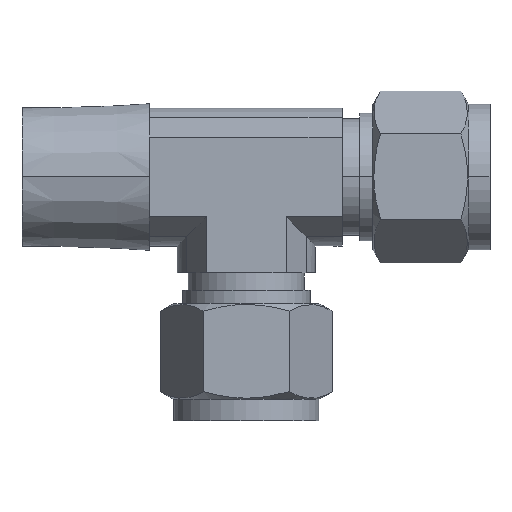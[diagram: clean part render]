
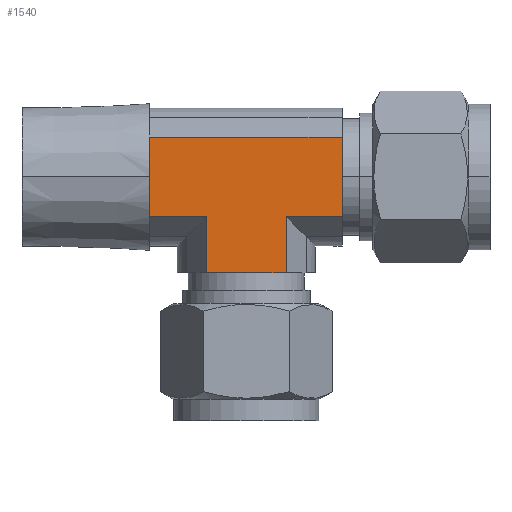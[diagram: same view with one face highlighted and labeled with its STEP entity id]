
A CAD part, top view. The second image highlights one B-rep face of the part: STEP entity #1540.
In plain terms, the highlighted planar face has unit normal (0, 0, 1).
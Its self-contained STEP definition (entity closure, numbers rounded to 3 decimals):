
#3 = CARTESIAN_POINT ( 'NONE',  ( -14.5, -5.947, 10.3 ) ) ;
#4 = DIRECTION ( 'NONE',  ( -1., 0., 0. ) ) ;
#5 = VECTOR ( 'NONE', #4, 1000. ) ;
#6 = CARTESIAN_POINT ( 'NONE',  ( 14.32, -5.947, 10.3 ) ) ;
#7 = LINE ( 'NONE', #6, #5 ) ;
#9 = CARTESIAN_POINT ( 'NONE',  ( -5.947, -5.947, 10.3 ) ) ;
#20 = DIRECTION ( 'NONE',  ( -1., 0., 0. ) ) ;
#21 = VECTOR ( 'NONE', #20, 1000. ) ;
#22 = CARTESIAN_POINT ( 'NONE',  ( 14.32, -5.947, 10.3 ) ) ;
#99 = DIRECTION ( 'NONE',  ( 0., 1., 0. ) ) ;
#100 = VECTOR ( 'NONE', #99, 1000. ) ;
#101 = CARTESIAN_POINT ( 'NONE',  ( 5.947, -14.32, 10.3 ) ) ;
#102 = LINE ( 'NONE', #101, #100 ) ;
#134 = CARTESIAN_POINT ( 'NONE',  ( 14.32, -5.947, 10.3 ) ) ;
#173 = LINE ( 'NONE', #22, #21 ) ;
#185 = DIRECTION ( 'NONE',  ( 0., -1., 0. ) ) ;
#186 = VECTOR ( 'NONE', #185, 1000. ) ;
#187 = CARTESIAN_POINT ( 'NONE',  ( 14.32, 5.947, 10.3 ) ) ;
#188 = LINE ( 'NONE', #187, #186 ) ;
#189 = CARTESIAN_POINT ( 'NONE',  ( 14.32, 5.947, 10.3 ) ) ;
#312 = DIRECTION ( 'NONE',  ( 0., 1., 0. ) ) ;
#313 = VECTOR ( 'NONE', #312, 1000. ) ;
#314 = CARTESIAN_POINT ( 'NONE',  ( -5.947, -14.32, 10.3 ) ) ;
#315 = DIRECTION ( 'NONE',  ( 0., 1., 0. ) ) ;
#316 = DIRECTION ( 'NONE',  ( 0., 0., -1. ) ) ;
#317 = CARTESIAN_POINT ( 'NONE',  ( 14.32, 5.947, 10.3 ) ) ;
#318 = AXIS2_PLACEMENT_3D ( 'NONE', #317, #316, #315 ) ;
#319 = PLANE ( 'NONE',  #318 ) ;
#320 = LINE ( 'NONE', #314, #313 ) ;
#321 = FACE_OUTER_BOUND ( 'NONE', #1541, .T. ) ;
#344 = DIRECTION ( 'NONE',  ( -1., 0., 0. ) ) ;
#345 = VECTOR ( 'NONE', #344, 1000. ) ;
#346 = CARTESIAN_POINT ( 'NONE',  ( 14.32, 5.947, 10.3 ) ) ;
#347 = LINE ( 'NONE', #346, #345 ) ;
#471 = CARTESIAN_POINT ( 'NONE',  ( 5.947, -5.947, 10.3 ) ) ;
#525 = DIRECTION ( 'NONE',  ( 0., 1., 0. ) ) ;
#526 = VECTOR ( 'NONE', #525, 1000. ) ;
#546 = CARTESIAN_POINT ( 'NONE',  ( -14.5, -3.692, 10.3 ) ) ;
#555 = CARTESIAN_POINT ( 'NONE',  ( -14.5, -5.947, 10.3 ) ) ;
#556 = LINE ( 'NONE', #555, #526 ) ;
#557 = DIRECTION ( 'NONE',  ( 0., 1., 0. ) ) ;
#558 = VECTOR ( 'NONE', #557, 1000. ) ;
#559 = CARTESIAN_POINT ( 'NONE',  ( -14.5, -5.947, 10.3 ) ) ;
#565 = LINE ( 'NONE', #559, #558 ) ;
#1039 = VERTEX_POINT ( 'NONE', #2502 ) ;
#1041 = EDGE_CURVE ( 'NONE', #1039, #1042, #2501, .T. ) ;
#1042 = VERTEX_POINT ( 'NONE', #2497 ) ;
#1155 = VERTEX_POINT ( 'NONE', #2744 ) ;
#1158 = EDGE_CURVE ( 'NONE', #1155, #1159, #2557, .T. ) ;
#1159 = VERTEX_POINT ( 'NONE', #2553 ) ;
#1230 = VERTEX_POINT ( 'NONE', #546 ) ;
#1274 = EDGE_CURVE ( 'NONE', #1230, #1155, #565, .T. ) ;
#1275 = ORIENTED_EDGE ( 'NONE', *, *, #1276, .F. ) ;
#1276 = EDGE_CURVE ( 'NONE', #1507, #1230, #556, .T. ) ;
#1335 = VERTEX_POINT ( 'NONE', #471 ) ;
#1378 = EDGE_CURVE ( 'NONE', #1039, #1335, #102, .T. ) ;
#1379 = ORIENTED_EDGE ( 'NONE', *, *, #1498, .F. ) ;
#1380 = ORIENTED_EDGE ( 'NONE', *, *, #1448, .F. ) ;
#1381 = ORIENTED_EDGE ( 'NONE', *, *, #1538, .T. ) ;
#1382 = ORIENTED_EDGE ( 'NONE', *, *, #1158, .F. ) ;
#1383 = ORIENTED_EDGE ( 'NONE', *, *, #1274, .F. ) ;
#1446 = VERTEX_POINT ( 'NONE', #189 ) ;
#1448 = EDGE_CURVE ( 'NONE', #1446, #1449, #188, .T. ) ;
#1449 = VERTEX_POINT ( 'NONE', #134 ) ;
#1498 = EDGE_CURVE ( 'NONE', #1449, #1335, #173, .T. ) ;
#1503 = VERTEX_POINT ( 'NONE', #9 ) ;
#1506 = EDGE_CURVE ( 'NONE', #1503, #1507, #7, .T. ) ;
#1507 = VERTEX_POINT ( 'NONE', #3 ) ;
#1538 = EDGE_CURVE ( 'NONE', #1446, #1159, #347, .T. ) ;
#1540 = ADVANCED_FACE ( 'NONE', ( #321 ), #319, .F. ) ;
#1541 = EDGE_LOOP ( 'NONE', ( #1542, #1543, #1545, #1546, #1379, #1380, #1381, #1382, #1383, #1275 ) ) ;
#1542 = ORIENTED_EDGE ( 'NONE', *, *, #1506, .F. ) ;
#1543 = ORIENTED_EDGE ( 'NONE', *, *, #1544, .F. ) ;
#1544 = EDGE_CURVE ( 'NONE', #1042, #1503, #320, .T. ) ;
#1545 = ORIENTED_EDGE ( 'NONE', *, *, #1041, .F. ) ;
#1546 = ORIENTED_EDGE ( 'NONE', *, *, #1378, .T. ) ;
#2497 = CARTESIAN_POINT ( 'NONE',  ( -5.947, -14.32, 10.3 ) ) ;
#2498 = DIRECTION ( 'NONE',  ( -1., 0., 0. ) ) ;
#2499 = VECTOR ( 'NONE', #2498, 1000. ) ;
#2500 = CARTESIAN_POINT ( 'NONE',  ( 5.947, -14.32, 10.3 ) ) ;
#2501 = LINE ( 'NONE', #2500, #2499 ) ;
#2502 = CARTESIAN_POINT ( 'NONE',  ( 5.947, -14.32, 10.3 ) ) ;
#2553 = CARTESIAN_POINT ( 'NONE',  ( -14.5, 5.947, 10.3 ) ) ;
#2554 = DIRECTION ( 'NONE',  ( 0., 1., 0. ) ) ;
#2555 = VECTOR ( 'NONE', #2554, 1000. ) ;
#2556 = CARTESIAN_POINT ( 'NONE',  ( -14.5, -5.947, 10.3 ) ) ;
#2557 = LINE ( 'NONE', #2556, #2555 ) ;
#2744 = CARTESIAN_POINT ( 'NONE',  ( -14.5, 3.692, 10.3 ) ) ;
